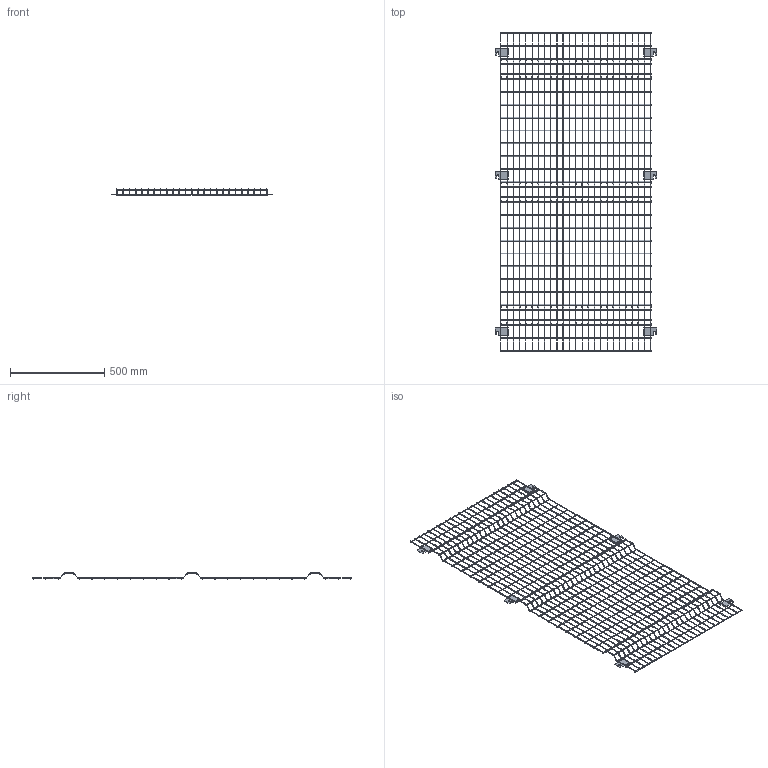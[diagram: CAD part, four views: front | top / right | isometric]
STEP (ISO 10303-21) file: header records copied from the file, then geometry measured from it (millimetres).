
FILE_DESCRIPTION (( 'STEP AP203' ), '1' );
FILE_NAME ('Frameless Panel 800 x 1688.STEP', '2023-09-15T16:50:38', ( '' ), ( '' ), 'SwSTEP 2.0', 'SolidWorks 2023', '' );
FILE_SCHEMA (( 'CONFIG_CONTROL_DESIGN' ));
Length unit declared in the file: millimetre
Products named in the file (1): Frameless Panel 800 x 1688
Bounding box: 856 x 1688 x 32 mm (x, y, z)
Volume: 912069.7 mm3; surface area: 893137.4 mm2
Topology: 61 solids, 61 shells, 1516 faces, 2982 edges, 1588 vertices
Faces by surface type: cylinder 752, torus 600, plane 164
Entity records: 38487 total; most frequent: DIRECTION 8120, CARTESIAN_POINT 6087, ORIENTED_EDGE 5964, AXIS2_PLACEMENT_3D 3621, EDGE_CURVE 2982, CIRCLE 2104, VERTEX_POINT 1588, ADVANCED_FACE 1516
